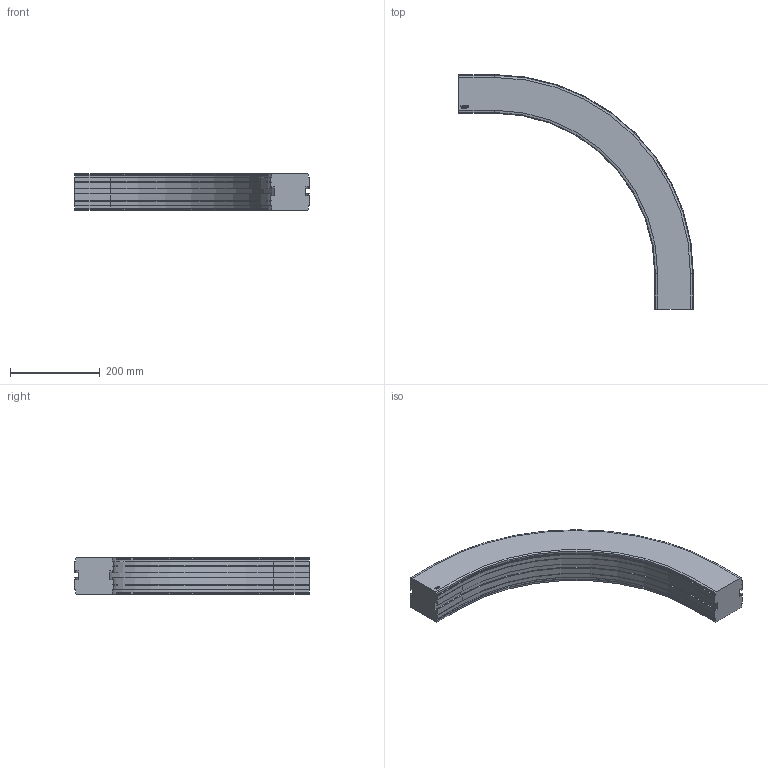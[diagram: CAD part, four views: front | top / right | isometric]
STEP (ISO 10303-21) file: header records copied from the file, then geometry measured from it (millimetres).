
FILE_DESCRIPTION((''),'2;1');
FILE_NAME('C:\Vault Klient\Projekt\Koncept konstruktion\Serie 830 Balk\830-5260.stp','2009-11-27T09:41:52',('Mathias'),(''),'Autodesk Inventor 2010','Autodesk Inventor 2010','');
FILE_SCHEMA(('AUTOMOTIVE_DESIGN { 1 0 10303 214 1 1 1 1 }'));
Length unit declared in the file: millimetre
Products named in the file (1): 830-5260
Bounding box: 523 x 523 x 81.5 mm (x, y, z)
Volume: 5239860 mm3; surface area: 335405 mm2
Topology: 1 solids, 1 shells, 169 faces, 446 edges, 284 vertices
Faces by surface type: plane 109, cylinder 30, bspline 14, cone 12, torus 4
Entity records: 5295 total; most frequent: CARTESIAN_POINT 1094, ORIENTED_EDGE 892, DIRECTION 802, EDGE_CURVE 446, VECTOR 346, LINE 346, VERTEX_POINT 284, AXIS2_PLACEMENT_3D 228
